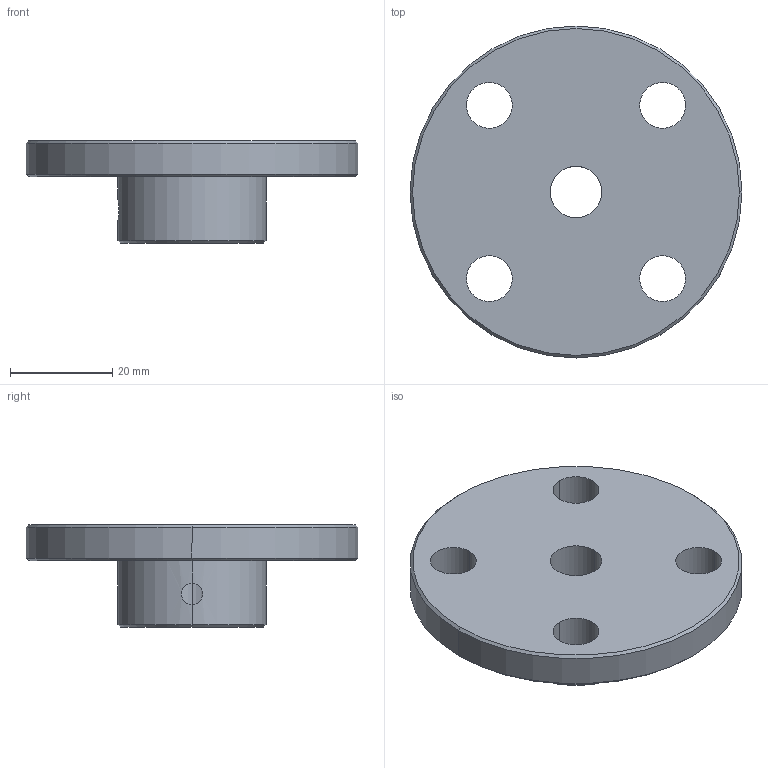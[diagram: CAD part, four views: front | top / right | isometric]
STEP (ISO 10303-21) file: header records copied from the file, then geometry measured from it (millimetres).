
FILE_DESCRIPTION (( 'STEP AP203' ), '1' );
FILE_NAME ('MJ1-FP.STEP', '2024-01-15T14:54:03', ( '' ), ( '' ), 'SwSTEP 2.0', 'SolidWorks 2022', '' );
FILE_SCHEMA (( 'CONFIG_CONTROL_DESIGN' ));
Length unit declared in the file: millimetre
Products named in the file (1): MJ1-FP
Bounding box: 65 x 65 x 20 mm (x, y, z)
Volume: 28239.5 mm3; surface area: 9957.8 mm2
Topology: 1 solids, 1 shells, 25 faces, 66 edges, 42 vertices
Faces by surface type: cylinder 16, cone 6, plane 3
Entity records: 975 total; most frequent: CARTESIAN_POINT 238, DIRECTION 144, ORIENTED_EDGE 132, EDGE_CURVE 66, AXIS2_PLACEMENT_3D 60, VERTEX_POINT 42, EDGE_LOOP 36, CIRCLE 34
